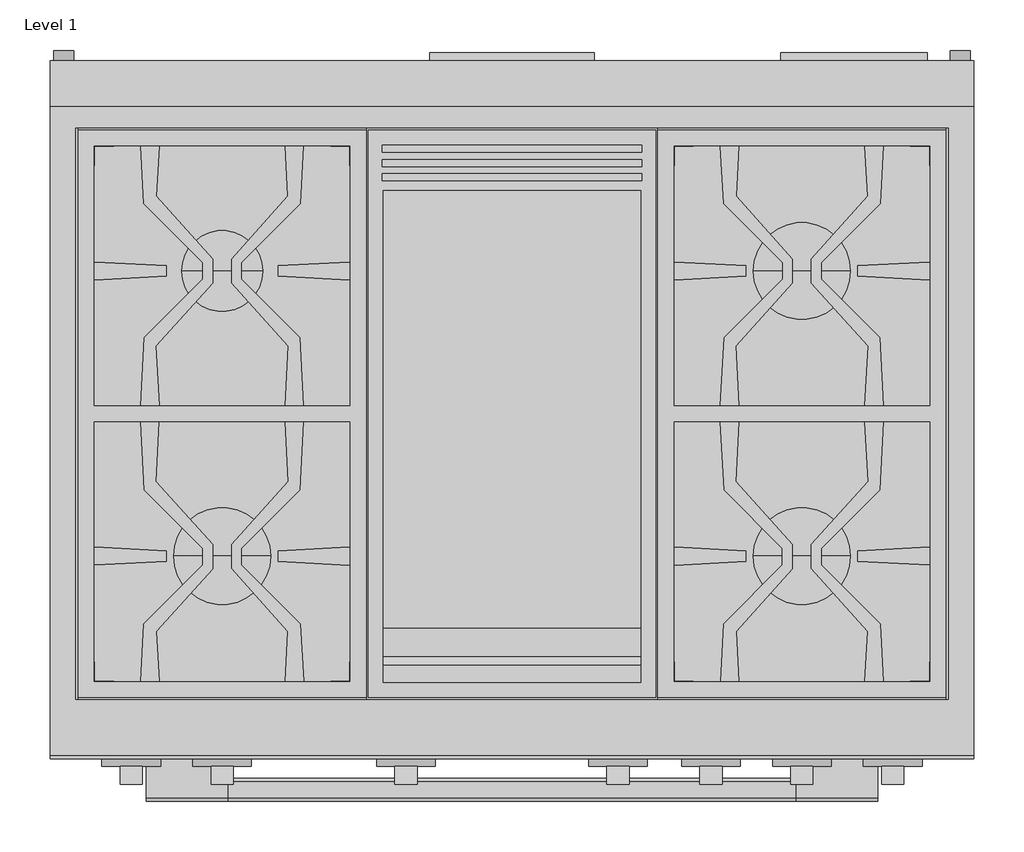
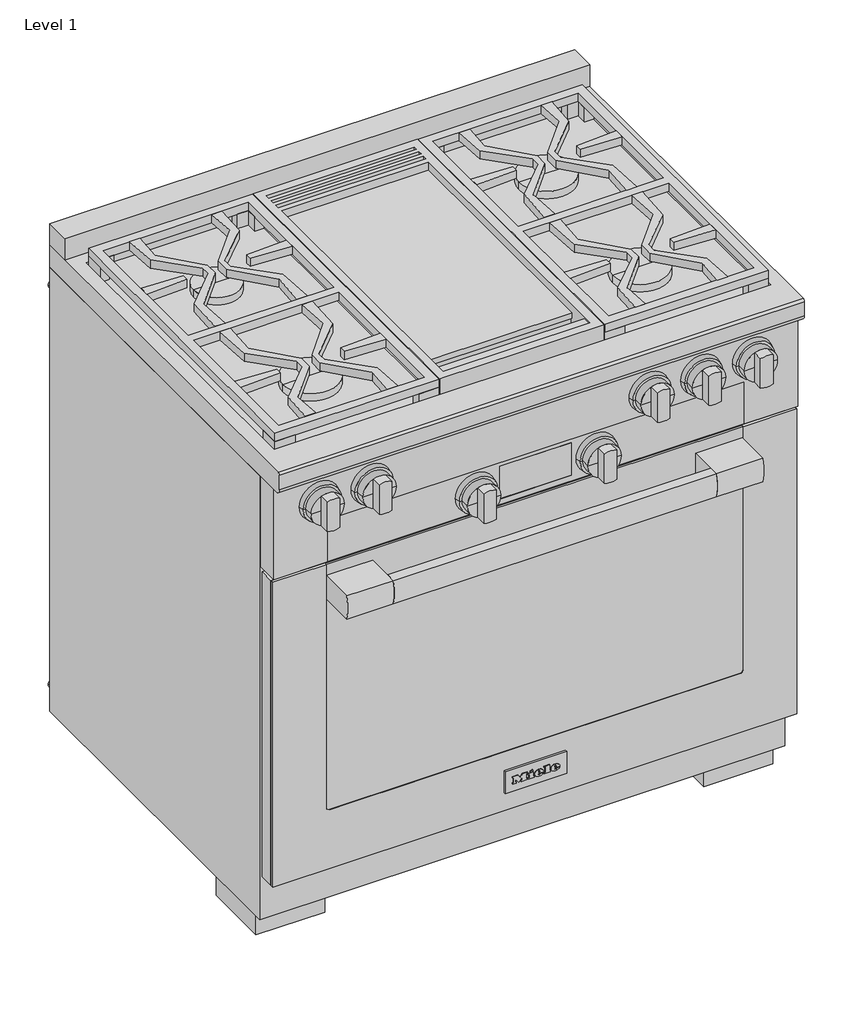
# One storey: 1 proxy.
"""IFC4 building model written with IfcOpenShell, lengths in millimetres."""

from ifc_helpers import new_model, si_unit, origin, place, context, project, spatial, transform, mapped, element, save
from components import specialty_equipment_065de27d, specialty_equipment_e78757b0

model = new_model("IFC4")

# Units and contexts
model_context = context("Model", 3, world=origin())
ifc_project = project(units=[si_unit("LENGTHUNIT", "METRE", prefix="MILLI")], contexts=[model_context])

# Site, building, storey
site = spatial("IfcSite", under=ifc_project)
building = spatial("IfcBuilding", under=site)
storey = spatial("IfcBuildingStorey", under=building, Name="Level 1", Elevation=0.0)

# Proxy
placement = place(None, origin())
specialty_equipment_shape = specialty_equipment_065de27d(model_context)
specialty_equipment_2_shape = specialty_equipment_e78757b0(model_context)
element("IfcBuildingElementProxy", 1, Name="11791500_USA_HR1136-3G_EDST-CLST : 25113681_USA_11791500_HR1136-3G_EDST-CLST", ObjectType="11791500_USA_HR1136-3G_EDST-CLST : 25113681_USA_11791500_HR1136-3G_EDST-CLST", at=placement, inside=storey, context=model_context, shape_type="MappedRepresentation", body=[
    mapped(specialty_equipment_shape, transform((0.0, 0.0, 0.0), x_axis=(1.0, 0.0, 0.0), y_axis=(0.0, 1.0, 0.0), z_axis=(0.0, 0.0, 1.0))),
    mapped(specialty_equipment_2_shape, transform((0.0, 0.0, 0.0), x_axis=(1.0, 0.0, 0.0), y_axis=(0.0, 1.0, 0.0), z_axis=(0.0, 0.0, 1.0))),
])

save(model, "model.ifc")
